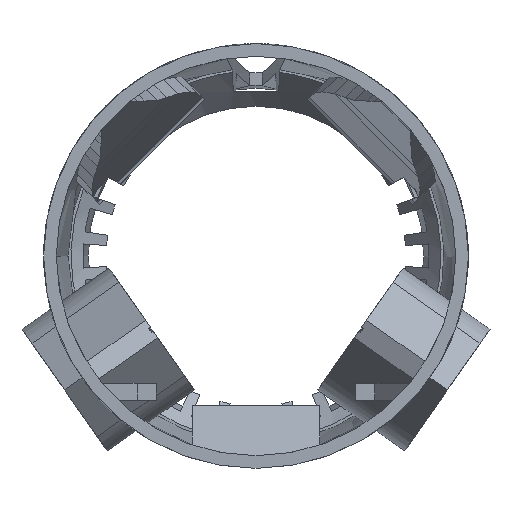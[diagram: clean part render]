
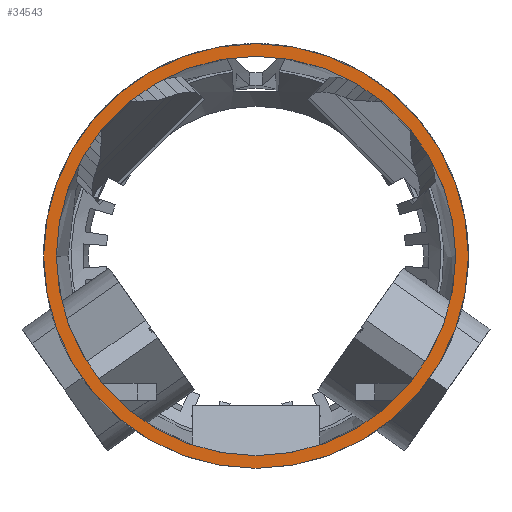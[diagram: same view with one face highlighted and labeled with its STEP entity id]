
A CAD part, left-side view. The second image highlights one B-rep face of the part: STEP entity #34543.
In plain terms, the highlighted planar face has unit normal (-1, 0, 0).
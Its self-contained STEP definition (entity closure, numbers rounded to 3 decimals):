
#21 = EDGE_CURVE('',#22,#22,#24,.T.);
#22 = VERTEX_POINT('',#23);
#23 = CARTESIAN_POINT('',(350.,20.,0.));
#24 = SURFACE_CURVE('',#25,(#30,#42),.PCURVE_S1.);
#25 = CIRCLE('',#26,20.);
#26 = AXIS2_PLACEMENT_3D('',#27,#28,#29);
#27 = CARTESIAN_POINT('',(350.,0.,0.));
#28 = DIRECTION('',(1.,0.,0.));
#29 = DIRECTION('',(-0.,1.,0.));
#30 = PCURVE('',#31,#36);
#31 = CYLINDRICAL_SURFACE('',#32,20.);
#32 = AXIS2_PLACEMENT_3D('',#33,#34,#35);
#33 = CARTESIAN_POINT('',(42.,0.,0.));
#34 = DIRECTION('',(1.,0.,0.));
#35 = DIRECTION('',(-0.,1.,0.));
#36 = DEFINITIONAL_REPRESENTATION('',(#37),#41);
#37 = LINE('',#38,#39);
#38 = CARTESIAN_POINT('',(0.,308.));
#39 = VECTOR('',#40,1.);
#40 = DIRECTION('',(1.,0.));
#41 = ( GEOMETRIC_REPRESENTATION_CONTEXT(2) 
PARAMETRIC_REPRESENTATION_CONTEXT() REPRESENTATION_CONTEXT('2D SPACE',''
  ) );
#42 = PCURVE('',#43,#48);
#43 = PLANE('',#44);
#44 = AXIS2_PLACEMENT_3D('',#45,#46,#47);
#45 = CARTESIAN_POINT('',(350.,-60.,-120.));
#46 = DIRECTION('',(1.,0.,-0.));
#47 = DIRECTION('',(0.,0.,1.));
#48 = DEFINITIONAL_REPRESENTATION('',(#49),#53);
#49 = CIRCLE('',#50,20.);
#50 = AXIS2_PLACEMENT_2D('',#51,#52);
#51 = CARTESIAN_POINT('',(120.,-60.));
#52 = DIRECTION('',(0.,-1.));
#53 = ( GEOMETRIC_REPRESENTATION_CONTEXT(2) 
PARAMETRIC_REPRESENTATION_CONTEXT() REPRESENTATION_CONTEXT('2D SPACE',''
  ) );
#3578 = CYLINDRICAL_SURFACE('',#3579,18.8);
#3579 = AXIS2_PLACEMENT_3D('',#3580,#3581,#3582);
#3580 = CARTESIAN_POINT('',(42.,0.,0.));
#3581 = DIRECTION('',(1.,0.,0.));
#3582 = DIRECTION('',(-0.,1.,0.));
#7436 = VERTEX_POINT('',#7437);
#7437 = CARTESIAN_POINT('',(350.,18.8,0.));
#7458 = EDGE_CURVE('',#7436,#7436,#7459,.T.);
#7459 = SURFACE_CURVE('',#7460,(#7465,#7472),.PCURVE_S1.);
#7460 = CIRCLE('',#7461,18.8);
#7461 = AXIS2_PLACEMENT_3D('',#7462,#7463,#7464);
#7462 = CARTESIAN_POINT('',(350.,0.,0.));
#7463 = DIRECTION('',(1.,0.,0.));
#7464 = DIRECTION('',(-0.,1.,0.));
#7465 = PCURVE('',#3578,#7466);
#7466 = DEFINITIONAL_REPRESENTATION('',(#7467),#7471);
#7467 = LINE('',#7468,#7469);
#7468 = CARTESIAN_POINT('',(0.,308.));
#7469 = VECTOR('',#7470,1.);
#7470 = DIRECTION('',(1.,0.));
#7471 = ( GEOMETRIC_REPRESENTATION_CONTEXT(2) 
PARAMETRIC_REPRESENTATION_CONTEXT() REPRESENTATION_CONTEXT('2D SPACE',''
  ) );
#7472 = PCURVE('',#43,#7473);
#7473 = DEFINITIONAL_REPRESENTATION('',(#7474),#7478);
#7474 = CIRCLE('',#7475,18.8);
#7475 = AXIS2_PLACEMENT_2D('',#7476,#7477);
#7476 = CARTESIAN_POINT('',(120.,-60.));
#7477 = DIRECTION('',(0.,-1.));
#7478 = ( GEOMETRIC_REPRESENTATION_CONTEXT(2) 
PARAMETRIC_REPRESENTATION_CONTEXT() REPRESENTATION_CONTEXT('2D SPACE',''
  ) );
#34543 = ADVANCED_FACE('',(#34544,#34547),#43,.F.);
#34544 = FACE_BOUND('',#34545,.F.);
#34545 = EDGE_LOOP('',(#34546));
#34546 = ORIENTED_EDGE('',*,*,#21,.T.);
#34547 = FACE_BOUND('',#34548,.F.);
#34548 = EDGE_LOOP('',(#34549));
#34549 = ORIENTED_EDGE('',*,*,#7458,.F.);
